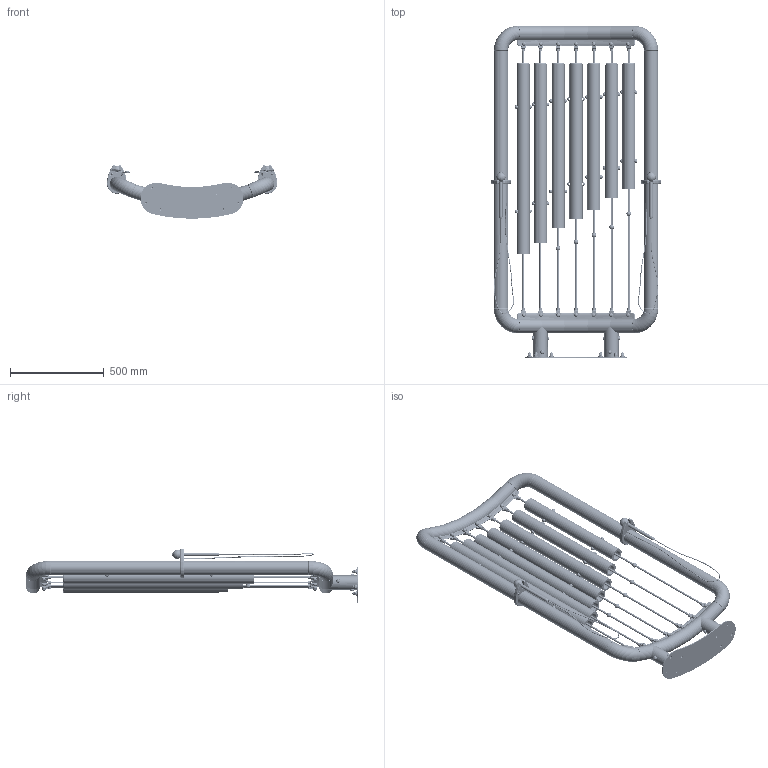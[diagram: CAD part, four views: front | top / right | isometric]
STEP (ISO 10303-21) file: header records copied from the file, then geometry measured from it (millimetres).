
FILE_DESCRIPTION (( 'STEP AP214' ), '1' );
FILE_NAME ('560.043.011.001 - Tubular Bells ''Ella'' with FLAT anchor.STEP', '2021-03-09T08:37:44', ( '' ), ( '' ), 'SwSTEP 2.0', 'SolidWorks 2018', '' );
FILE_SCHEMA (( 'AUTOMOTIVE_DESIGN' ));
Length unit declared in the file: millimetre
Products named in the file (1): 560.043.011.001 - Tubular Bells ''Ella'' with FLAT anchor
Bounding box: 907.75 x 1774.05 x 285.82 mm (x, y, z)
Volume: 45130552.8 mm3; surface area: 4106718 mm2
Topology: 262 solids, 263 shells, 6325 faces, 15303 edges, 9575 vertices
Faces by surface type: cylinder 1948, plane 1559, bspline 1080, torus 848, cone 732, sphere 158
Entity records: 306939 total; most frequent: CARTESIAN_POINT 91577, DIRECTION 30670, ORIENTED_EDGE 29864, EDGE_CURVE 14932, AXIS2_PLACEMENT_3D 13242, VERTEX_POINT 9426, CIRCLE 7996, EDGE_LOOP 7118
